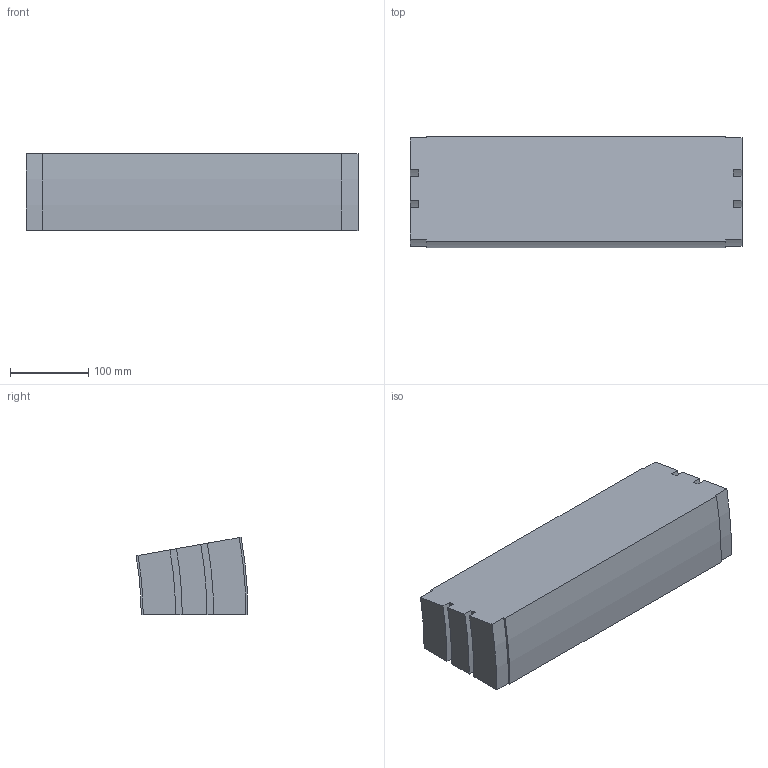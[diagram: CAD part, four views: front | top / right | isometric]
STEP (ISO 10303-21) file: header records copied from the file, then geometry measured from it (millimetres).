
FILE_DESCRIPTION (( 'STEP AP214' ), '1' );
FILE_NAME ('02.150V10.420.N FS-350-MTC-150 Bocht verticaal 10°.STEP', '2013-03-29T12:29:26', ( 'Gebruiker' ), ( '' ), 'SwSTEP 2.0', 'SolidWorks 2012', '' );
FILE_SCHEMA (( 'AUTOMOTIVE_DESIGN' ));
Length unit declared in the file: millimetre
Products named in the file (1): 02.150V10.420.N FS-350-MTC-150 Bocht verticaal 10°
Bounding box: 423 x 142.56 x 98.63 mm (x, y, z)
Volume: 4969301.4 mm3; surface area: 219131.4 mm2
Topology: 1 solids, 1 shells, 30 faces, 84 edges, 56 vertices
Faces by surface type: plane 16, cylinder 14
Entity records: 1010 total; most frequent: DIRECTION 174, CARTESIAN_POINT 171, ORIENTED_EDGE 168, EDGE_CURVE 84, AXIS2_PLACEMENT_3D 59, VERTEX_POINT 56, LINE 56, VECTOR 56
